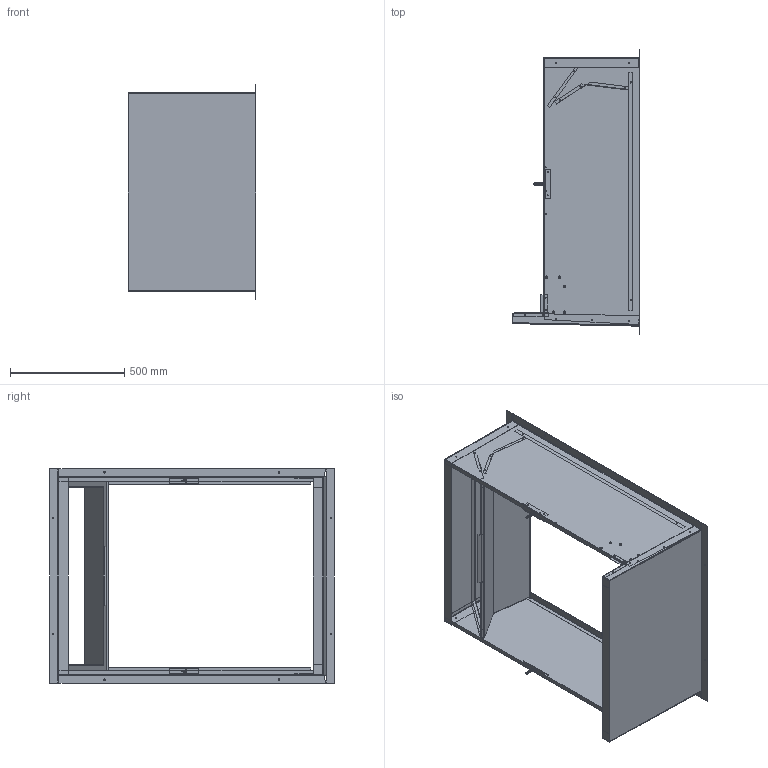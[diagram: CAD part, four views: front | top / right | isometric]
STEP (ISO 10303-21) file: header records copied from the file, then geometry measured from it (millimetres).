
FILE_DESCRIPTION (( 'STEP AP203' ), '1' );
FILE_NAME ('QWS42A-16.STEP', '2014-03-13T18:10:45', ( 'generic' ), ( 'Hewlett-Packard Company' ), 'SwSTEP 2.0', 'SolidWorks 2014', '' );
FILE_SCHEMA (( 'CONFIG_CONTROL_DESIGN' ));
Length unit declared in the file: inch
Products named in the file (12): 104-1060; 110-082; 110-083; 110-049; 110-050; 130-120; 120-309; 136-449; 1012-036; 136-450; QWS42A-16; 104-988
Assembly tree (14 placements, depth 2):
  QWS42A-16
    130-120
    136-449
    136-450
    104-988  x2
    104-1060  x2
    110-082
    110-083
    110-049
    110-050
    120-309
    1012-036  x2
Bounding box: 559.55 x 1244.54 x 937.19 mm (x, y, z)
Volume: 3877052.7 mm3; surface area: 5551457 mm2
Topology: 14 solids, 14 shells, 1075 faces, 2521 edges, 1466 vertices
Faces by surface type: plane 418, cylinder 347, cone 236, bspline 34, sphere 20, torus 20
Entity records: 28757 total; most frequent: CARTESIAN_POINT 6171, DIRECTION 4559, ORIENTED_EDGE 4276, EDGE_CURVE 2138, AXIS2_PLACEMENT_3D 1683, VERTEX_POINT 1257, LINE 1193, VECTOR 1193
